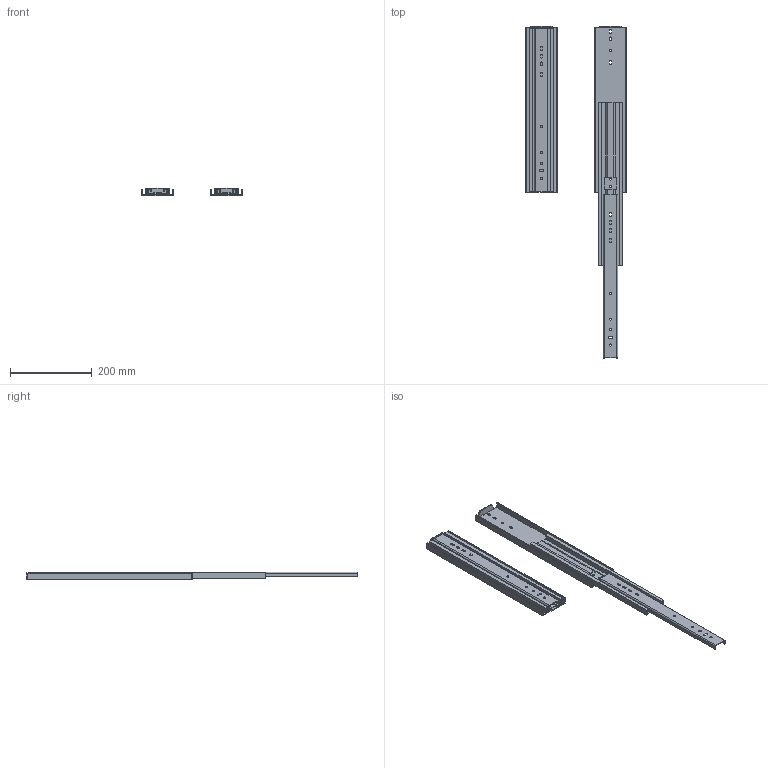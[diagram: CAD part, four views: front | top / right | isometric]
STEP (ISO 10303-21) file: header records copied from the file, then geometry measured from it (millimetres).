
FILE_DESCRIPTION((''),'2;1');
FILE_NAME('ASSEM1_1_2_3_4_5_ASM','2026-04-07T16:28:06',('T260078'),(''),'CREO PARAMETRIC BY PTC INC, 2025123','CREO PARAMETRIC BY PTC INC, 2025123','');
FILE_SCHEMA(('CONFIG_CONTROL_DESIGN','SHAPE_APPEARANCE_LAYERS_GROUPS'));
Length unit declared in the file: millimetre
Products named in the file (6): 76J01-16_X2_540B_X0_-M; 76J01-16_X2_540B_X0_-I; 76J01-16_X2_540B_X0_-O; 76J01-16_X2_540_X0__ASM; 76J01-16_X2_540B_X0_-_X2_5C5595_ASM; ASSEM1_1_2_3_4_5_ASM
Assembly tree (8 placements, depth 3):
  ASSEM1_1_2_3_4_5_ASM
    76J01-16_X2_540_X0__ASM
      76J01-16_X2_540B_X0_-M
      76J01-16_X2_540B_X0_-I
      76J01-16_X2_540B_X0_-O
    76J01-16_X2_540B_X0_-_X2_5C5595_ASM
      76J01-16_X2_540B_X0_-I
      76J01-16_X2_540B_X0_-M
      76J01-16_X2_540B_X0_-O
Bounding box: 245.44 x 812.8 x 19.3 mm (x, y, z)
Volume: 495839.9 mm3; surface area: 444956 mm2
Topology: 6 solids, 6 shells, 324 faces, 1008 edges, 688 vertices
Faces by surface type: plane 176, cylinder 148
Entity records: 6959 total; most frequent: CARTESIAN_POINT 1056, DIRECTION 1026, ORIENTED_EDGE 1008, EDGE_CURVE 504, AXIS2_PLACEMENT_3D 348, VERTEX_POINT 344, VECTOR 330, LINE 330
